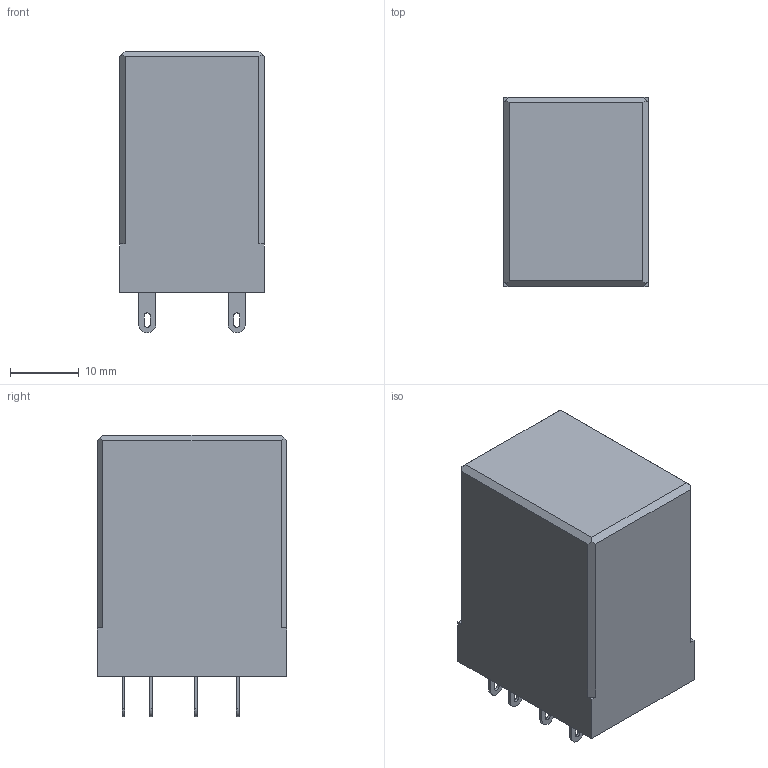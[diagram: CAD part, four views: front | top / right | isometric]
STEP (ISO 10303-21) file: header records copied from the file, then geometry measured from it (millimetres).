
FILE_DESCRIPTION (( 'STEP AP203' ), '1' );
FILE_NAME ('RI-52 ENGARD.STEP', '2021-12-08T11:36:38', ( '' ), ( '' ), 'SwSTEP 2.0', 'SolidWorks 2017', '' );
FILE_SCHEMA (( 'CONFIG_CONTROL_DESIGN' ));
Length unit declared in the file: millimetre
Products named in the file (1): RI-52 ENGARD
Bounding box: 21 x 27.5 x 40.9 mm (x, y, z)
Volume: 5558.2 mm3; surface area: 9728.4 mm2
Topology: 10 solids, 10 shells, 139 faces, 354 edges, 236 vertices
Faces by surface type: plane 99, cylinder 40
Entity records: 4279 total; most frequent: CARTESIAN_POINT 730, DIRECTION 714, ORIENTED_EDGE 708, EDGE_CURVE 354, LINE 274, VECTOR 274, VERTEX_POINT 236, AXIS2_PLACEMENT_3D 220
